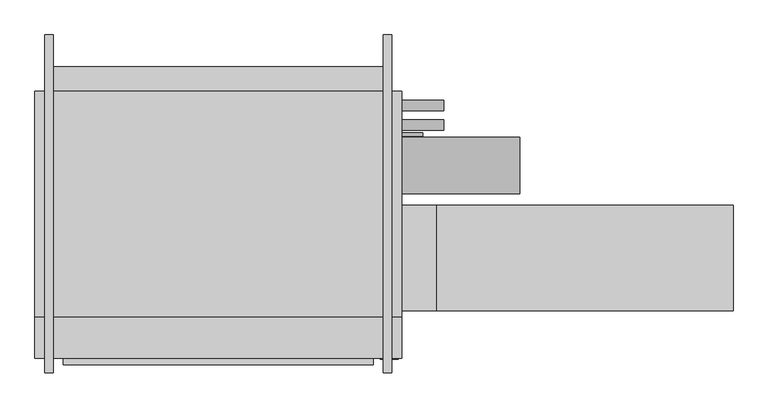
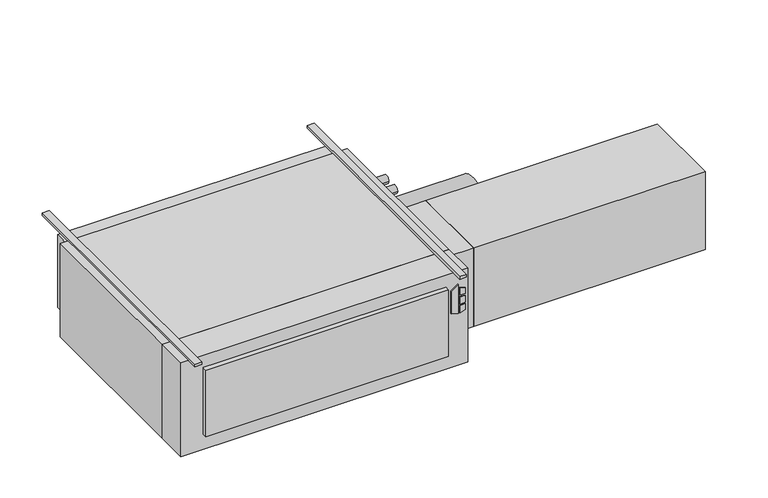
"""IFC4 building model written with IfcOpenShell, lengths in millimetres: proxy geometry."""

from ifc_helpers import new_model, si_unit, point, frame, frame_2d, origin, origin_with_axes, place, context, project, spatial, polyline, circle_curve, trimmed, segment, composite_curve, outline, extrude, source, transform, mapped, element, save


def mechanical_equipment_81a88c02(model_context):
    return source(origin(), model_context, "Body", "SweptSolid", [
        extrude(outline(polyline([(-193.2519297, 735.0868862), (-203.2, 767.2602728), (-61.0290756, 767.2602728), (-84.0510817, 735.0868862), (-193.2519297, 735.0868862)])), frame((0.0, -797.052, 0.0), z_axis=(0.0, 1.0, 0.0), x_axis=(0.0, 0.0, 1.0)), (0.0, 0.0, 1.0), 3.175),
        extrude(outline(polyline([(-114.2526443, 774.0186058), (-117.4550368, 800.1), (-88.2261958, 800.1), (-80.1617807, 774.0186058), (-114.2526443, 774.0186058)])), frame((0.0, -797.052, 0.0), z_axis=(0.0, 1.0, 0.0), x_axis=(0.0, 0.0, 1.0)), (0.0, 0.0, 1.0), 3.175),
        extrude(outline(polyline([(-166.1161712, 800.1), (-169.7816721, 774.0186058), (-203.2, 774.0186058), (-194.5657628, 800.1), (-166.1161712, 800.1)])), frame((0.0, -797.052, 0.0), z_axis=(0.0, 1.0, 0.0), x_axis=(0.0, 0.0, 1.0)), (0.0, 0.0, 1.0), 3.175),
        extrude(outline(polyline([(-126.8010097, 800.1), (-124.5191834, 774.0186058), (-160.4567319, 774.0186058), (-157.7154669, 800.1), (-126.8010097, 800.1)])), frame((0.0, -797.052, 0.0), z_axis=(0.0, 1.0, 0.0), x_axis=(0.0, 0.0, 1.0)), (0.0, 0.0, 1.0), 3.175),
        extrude(outline(polyline([(812.8, -793.877), (-508.0, -793.877), (-508.0, -644.525), (812.8, -644.525), (812.8, -793.877)])), frame((0.0, 0.0, -457.2), z_axis=(0.0, 0.0, 1.0), x_axis=(1.0, 0.0, 0.0)), (0.0, 0.0, 1.0), 457.2),
        extrude(outline(polyline([(711.2, -816.229), (-406.4, -816.229), (-406.4, -793.877), (711.2, -793.877), (711.2, -816.229)])), frame((0.0, 0.0, -381.0), z_axis=(0.0, 0.0, 1.0), x_axis=(1.0, 0.0, 0.0)), (0.0, 0.0, 1.0), 323.85),
        extrude(outline(polyline([(2006.6, -241.3), (2006.6, -622.3), (939.8, -622.3), (939.8, -241.3), (2006.6, -241.3)])), frame((0.0, 0.0, -431.8), z_axis=(0.0, 0.0, 1.0), x_axis=(1.0, 0.0, 0.0)), (0.0, 0.0, 1.0), 381.0),
        extrude(outline(polyline([(939.8, -241.3), (939.8, -622.3), (812.8, -622.3), (812.8, -241.3), (939.8, -241.3)])), frame((0.0, 0.0, -431.8), z_axis=(0.0, 0.0, 1.0), x_axis=(1.0, 0.0, 0.0)), (0.0, 0.0, 1.0), 381.0),
        extrude(outline(composite_curve([segment(trimmed(circle_curve(frame_2d((117.475, -171.45)), 19.05), [point((136.525, -171.45))], [point((98.425, -171.45))], False, "CARTESIAN"), True, "CONTINUOUS"), segment(trimmed(circle_curve(frame_2d((117.475, -171.45)), 19.05), [point((98.425, -171.45))], [point((136.525, -171.45))], False, "CARTESIAN"), True, "CONTINUOUS")], self_intersect=False)), frame((812.8, 0.0, 0.0), z_axis=(1.0, 0.0, 0.0), x_axis=(0.0, 1.0, 0.0)), (0.0, 0.0, 1.0), 152.4),
        extrude(outline(composite_curve([segment(trimmed(circle_curve(frame_2d((47.625, -177.8)), 19.05), [point((66.675, -177.8))], [point((28.575, -177.8))], False, "CARTESIAN"), True, "CONTINUOUS"), segment(trimmed(circle_curve(frame_2d((47.625, -177.8)), 19.05), [point((28.575, -177.8))], [point((66.675, -177.8))], False, "CARTESIAN"), True, "CONTINUOUS")], self_intersect=False)), frame((812.8, 0.0, 0.0), z_axis=(1.0, 0.0, 0.0), x_axis=(0.0, 1.0, 0.0)), (0.0, 0.0, 1.0), 152.4),
        extrude(outline(composite_curve([segment(trimmed(circle_curve(frame_2d((-98.4896516, -228.6360165)), 101.6), [point((3.1103484, -228.6360165))], [point((-200.0896516, -228.6360165))], False, "CARTESIAN"), True, "CONTINUOUS"), segment(trimmed(circle_curve(frame_2d((-98.4896516, -228.6360165)), 101.6), [point((-200.0896516, -228.6360165))], [point((3.1103484, -228.6360165))], False, "CARTESIAN"), True, "CONTINUOUS")], self_intersect=False)), frame((812.8, 0.0, 0.0), z_axis=(1.0, 0.0, 0.0), x_axis=(0.0, 1.0, 0.0)), (0.0, 0.0, 1.0), 425.45),
        extrude(outline(composite_curve([segment(trimmed(circle_curve(frame_2d((12.7, -409.575)), 6.35), [point((19.05, -409.575))], [point((6.35, -409.575))], False, "CARTESIAN"), True, "CONTINUOUS"), segment(trimmed(circle_curve(frame_2d((12.7, -409.575)), 6.35), [point((6.35, -409.575))], [point((19.05, -409.575))], False, "CARTESIAN"), True, "CONTINUOUS")], self_intersect=False)), frame((812.8, 0.0, 0.0), z_axis=(1.0, 0.0, 0.0), x_axis=(0.0, 1.0, 0.0)), (0.0, 0.0, 1.0), 76.2),
        extrude(outline(polyline([(812.8, 168.275), (812.8, -644.525), (-508.0, -644.525), (-508.0, 168.275), (812.8, 168.275)])), frame((0.0, 0.0, -457.2), z_axis=(0.0, 0.0, 1.0), x_axis=(1.0, 0.0, 0.0)), (0.0, 0.0, 1.0), 457.2),
        extrude(outline(polyline([(-469.9, 257.175), (774.7, 257.175), (774.7, 168.275), (-469.9, 168.275), (-469.9, 257.175)])), frame((0.0, 0.0, -381.0), z_axis=(0.0, 0.0, 1.0), x_axis=(1.0, 0.0, 0.0)), (0.0, 0.0, 1.0), 355.6),
        extrude(outline(polyline([(-441.325, 371.475), (-441.325, -844.677), (-473.075, -844.677), (-473.075, 371.475), (-441.325, 371.475)])), origin_with_axes(), (0.0, 0.0, 1.0), 12.7),
        extrude(outline(polyline([(777.875, 371.475), (777.875, -844.677), (746.125, -844.677), (746.125, 371.475), (777.875, 371.475)])), origin_with_axes(), (0.0, 0.0, 1.0), 12.7),
    ])


if __name__ == "__main__":
    model = new_model("IFC4")
    model_context = context("Model", 3, world=origin())
    ifc_project = project(units=[si_unit("LENGTHUNIT", "METRE", prefix="MILLI")], contexts=[model_context])
    site = spatial("IfcSite", under=ifc_project)
    building = spatial("IfcBuilding", under=site)
    placement = place(None, origin())
    mechanical_equipment_shape = mechanical_equipment_81a88c02(model_context)
    element("IfcBuildingElementProxy", 1, Name="High_Capacity_Horizontal_Cabinet_Fan_Coil_Unit_-_HTY_-_IEC_-_2 Pipe, Elec Heat_WO-Attenuator_RH Side_2022 : Size 18 - 277v/60Hz/1Ph - 8/0 Coil 10.0kW - 8\" AirIn", ObjectType="High_Capacity_Horizontal_Cabinet_Fan_Coil_Unit_-_HTY_-_IEC_-_2 Pipe, Elec Heat_WO-Attenuator_RH Side_2022 : Size 18 - 277v/60Hz/1Ph - 8/0 Coil 10.0kW - 8\" AirIn", at=placement, inside=building, context=model_context, shape_type="MappedRepresentation", body=[
        mapped(mechanical_equipment_shape, transform((0.0, 0.0, 0.0), x_axis=(1.0, 0.0, 0.0), y_axis=(0.0, 1.0, 0.0), z_axis=(0.0, 0.0, 1.0))),
    ])
    save(model, "model.ifc")
